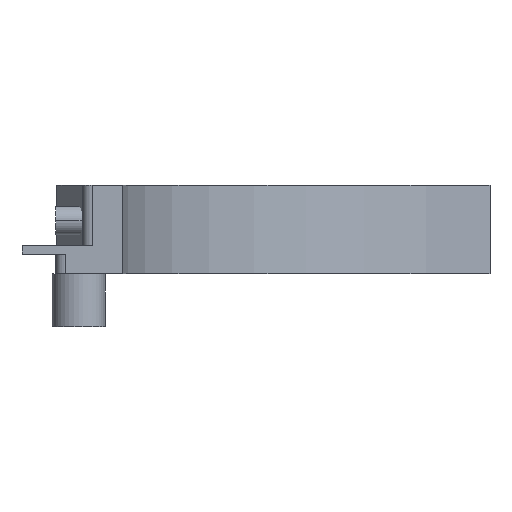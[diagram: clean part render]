
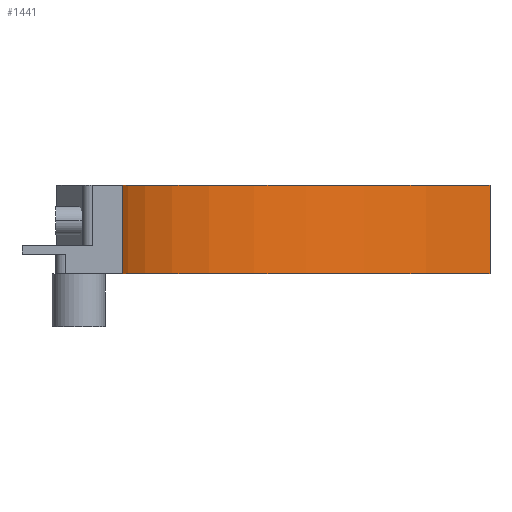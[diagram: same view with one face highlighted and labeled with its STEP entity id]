
A CAD part, front view. The second image highlights one B-rep face of the part: STEP entity #1441.
In plain terms, the highlighted cylindrical face has radius 20.8 mm (diameter 41.6 mm), a partial arc.
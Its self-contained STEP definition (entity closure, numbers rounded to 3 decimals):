
#55=CARTESIAN_POINT('',(0.,0.,0.));
#56=DIRECTION('',(0.,0.,-1.));
#57=DIRECTION('',(-1.,0.,0.));
#58=AXIS2_PLACEMENT_3D('',#55,#56,#57);
#164=CARTESIAN_POINT('',(0.,0.,5.));
#165=DIRECTION('',(0.,0.,-1.));
#166=DIRECTION('',(-1.,0.,0.));
#167=AXIS2_PLACEMENT_3D('',#164,#165,#166);
#420=DIRECTION('',(0.,0.,1.));
#421=VECTOR('',#420,5.);
#422=CARTESIAN_POINT('',(0.,20.8,0.));
#423=LINE('',#422,#421);
#552=DIRECTION('',(0.,0.,1.));
#553=VECTOR('',#552,5.);
#554=CARTESIAN_POINT('',(-20.8,0.,0.));
#555=LINE('',#554,#553);
#570=CARTESIAN_POINT('',(-20.8,0.,0.));
#571=CARTESIAN_POINT('',(0.,20.8,0.));
#572=VERTEX_POINT('',#570);
#573=VERTEX_POINT('',#571);
#574=CARTESIAN_POINT('',(0.,20.8,5.));
#576=VERTEX_POINT('',#574);
#578=CARTESIAN_POINT('',(-20.8,0.,5.));
#579=VERTEX_POINT('',#578);
#1430=CARTESIAN_POINT('',(0.,0.,0.));
#1431=DIRECTION('',(0.,0.,1.));
#1432=DIRECTION('',(1.,0.,0.));
#1433=AXIS2_PLACEMENT_3D('',#1430,#1431,#1432);
#1434=CYLINDRICAL_SURFACE('',#1433,20.8);
#1435=ORIENTED_EDGE('',*,*,#737,.F.);
#1436=ORIENTED_EDGE('',*,*,#1045,.T.);
#1437=ORIENTED_EDGE('',*,*,#836,.T.);
#1438=ORIENTED_EDGE('',*,*,#1264,.F.);
#1439=EDGE_LOOP('',(#1435,#1436,#1437,#1438));
#1440=FACE_OUTER_BOUND('',#1439,.F.);
#1441=ADVANCED_FACE('',(#1440),#1434,.F.);
#59=CIRCLE('',#58,20.8);
#168=CIRCLE('',#167,20.8);
#737=EDGE_CURVE('',#572,#573,#59,.T.);
#836=EDGE_CURVE('',#579,#576,#168,.T.);
#1045=EDGE_CURVE('',#572,#579,#555,.T.);
#1264=EDGE_CURVE('',#573,#576,#423,.T.);
